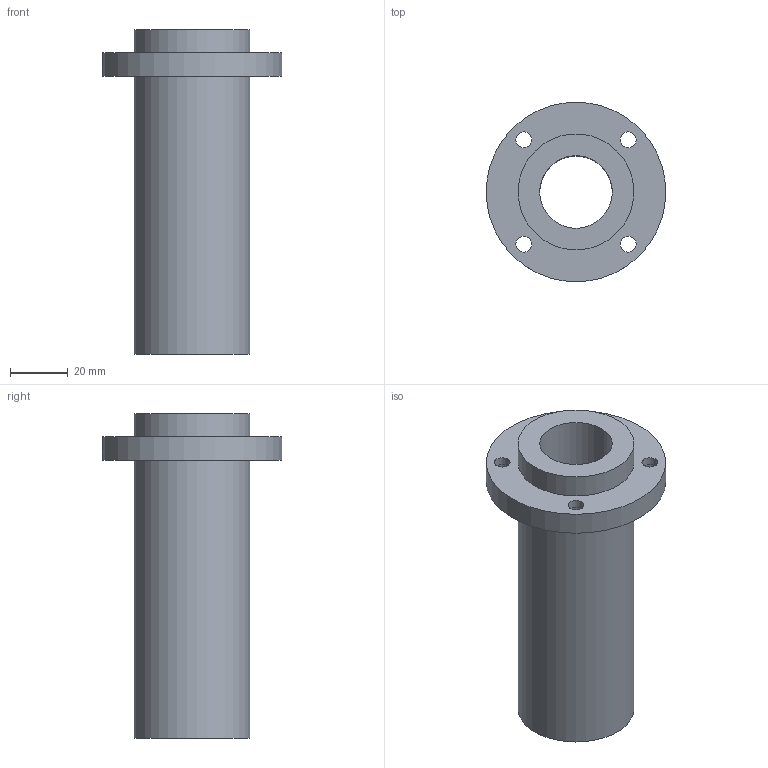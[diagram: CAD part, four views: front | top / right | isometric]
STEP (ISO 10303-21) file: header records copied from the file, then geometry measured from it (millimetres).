
FILE_DESCRIPTION(/* description */ (''),/* implementation_level */ '2;1');
FILE_NAME(/* name */ 'LMFP25LUU',/* time_stamp */ '2019-07-03T13:00:52+02:00',/* author */ ('VĂ©gh MĂˇtĂ©'),/* organization */ ('Bearing Kft'),/* preprocessor_version */ 'ST-DEVELOPER v16.7',/* originating_system */ 'DEX',/* authorisation */ $);
FILE_SCHEMA (('AUTOMOTIVE_DESIGN {1 0 10303 214 3 1 1}'));
Length unit declared in the file: millimetre
Products named in the file (1): LMFP25LUU
Bounding box: 61.76 x 61.76 x 112 mm (x, y, z)
Volume: 98287.1 mm3; surface area: 29093.4 mm2
Topology: 1 solids, 1 shells, 338 faces, 850 edges, 568 vertices
Faces by surface type: plane 263, bspline 61, cylinder 14
Full cylindrical faces by diameter (mm): 5.5 x4, 9 x4, 25 x1, 40 x2, 62 x1
Entity records: 13031 total; most frequent: CARTESIAN_POINT 5311, ORIENTED_EDGE 1666, DIRECTION 1295, EDGE_CURVE 833, LINE 683, VECTOR 683, VERTEX_POINT 564, EDGE_LOOP 415
